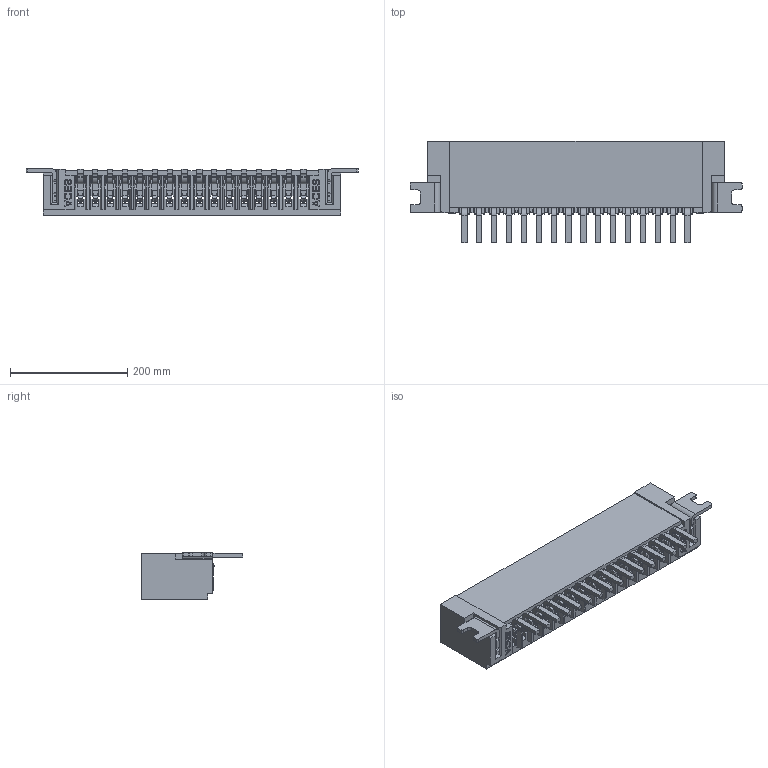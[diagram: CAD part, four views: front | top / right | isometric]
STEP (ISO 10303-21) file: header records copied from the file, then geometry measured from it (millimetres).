
FILE_DESCRIPTION((''),'2;1');
FILE_NAME('S-50687-016XX-XXX','2014-09-25T',('d21450'),(''),'PRO/ENGINEER BY PARAMETRIC TECHNOLOGY CORPORATION, 2009360','PRO/ENGINEER BY PARAMETRIC TECHNOLOGY CORPORATION, 2009360','');
FILE_SCHEMA(('CONFIG_CONTROL_DESIGN'));
Length unit declared in the file: inch
Products named in the file (1): S-50687-016XX-XXX
Bounding box: 567.18 x 172.72 x 80.19 mm (x, y, z)
Volume: 3737764.5 mm3; surface area: 471670.8 mm2
Topology: 1 solids, 1 shells, 1731 faces, 5034 edges, 3280 vertices
Faces by surface type: plane 1454, cylinder 245, torus 32
Entity records: 56278 total; most frequent: CARTESIAN_POINT 10297, ORIENTED_EDGE 9924, DIRECTION 9000, EDGE_CURVE 4962, VECTOR 4368, LINE 4368, VERTEX_POINT 3208, AXIS2_PLACEMENT_3D 2316
